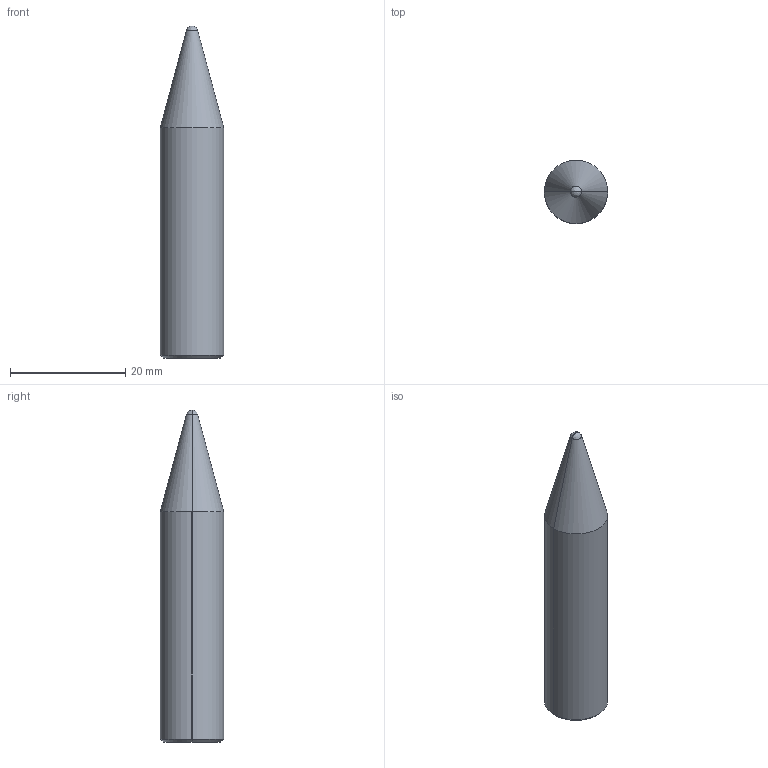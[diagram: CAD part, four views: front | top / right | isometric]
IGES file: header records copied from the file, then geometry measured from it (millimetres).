
Global section: file name: E:\UnigraphicsGraphicData\MISUMI_PRESS-PARTS\IGES\3d_snsth12-p11.00-b40_02975_r00.igs; native system: NX V5.0; preprocessor: UGS NX IGES V5.0; author: MISUMI; date: 20110105.162855; units: millimetre
Bounding box: 11 x 11 x 57.66 mm (x, y, z)
Surface area: 2053.8 mm2 (no closed solid volume)
Topology: 0 solids, 0 shells, 12 faces, 64 edges, 62 vertices
Faces by surface type: bspline 12
